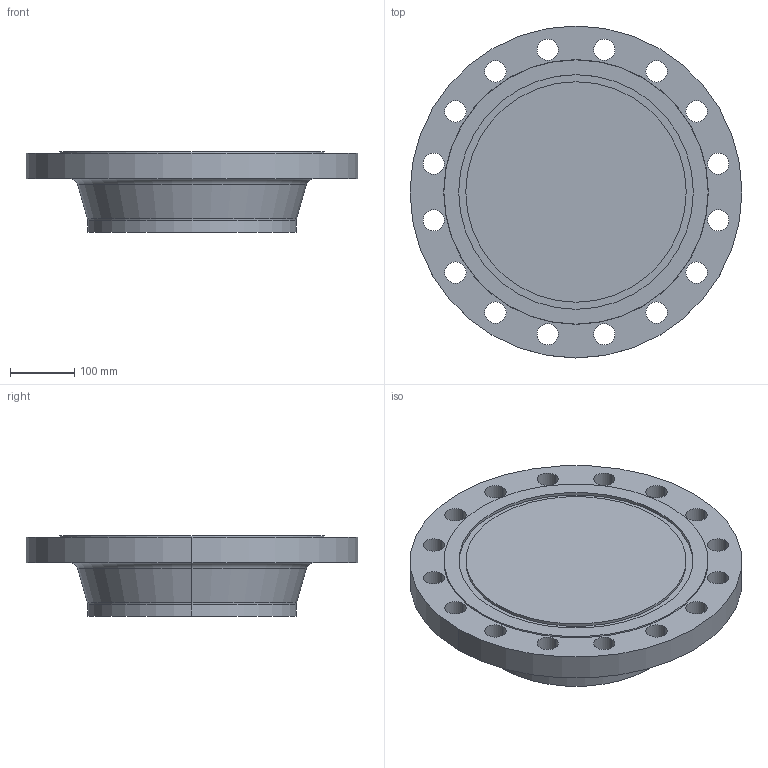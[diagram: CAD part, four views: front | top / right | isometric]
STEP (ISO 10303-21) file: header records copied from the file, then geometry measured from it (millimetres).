
FILE_DESCRIPTION (( 'STEP AP214' ), '1' );
FILE_NAME ('PN40 DN300 Type 21(ii) - Type D Face.STEP', '2019-01-05T18:59:15', ( '' ), ( '' ), 'SwSTEP 2.0', 'SolidWorks 2019', '' );
FILE_SCHEMA (( 'AUTOMOTIVE_DESIGN' ));
Length unit declared in the file: millimetre
Products named in the file (1): PN40 DN300 Type 21(ii) - Type D Face
Bounding box: 515 x 515 x 125 mm (x, y, z)
Volume: 15452277.4 mm3; surface area: 600940.3 mm2
Topology: 1 solids, 1 shells, 54 faces, 138 edges, 90 vertices
Faces by surface type: cylinder 40, plane 6, torus 4, cone 4
Entity records: 1786 total; most frequent: DIRECTION 342, CARTESIAN_POINT 283, ORIENTED_EDGE 276, AXIS2_PLACEMENT_3D 149, EDGE_CURVE 138, CIRCLE 94, EDGE_LOOP 90, VERTEX_POINT 90
